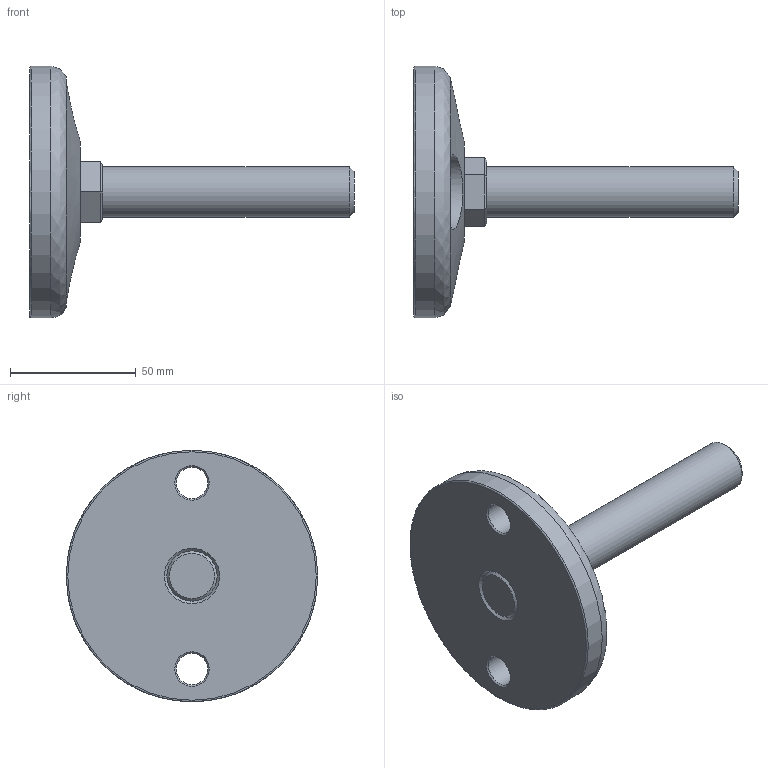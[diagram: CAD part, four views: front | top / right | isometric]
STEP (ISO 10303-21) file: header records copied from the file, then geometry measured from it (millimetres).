
FILE_DESCRIPTION(('STEP AP203'),'2;1');
FILE_NAME('12146.stp','2013-12-10T16:20:44',(''),(''),'2008.1.107','THINKDESIGN','');
FILE_SCHEMA(('CONFIG_CONTROL_DESIGN'));
Length unit declared in the file: millimetre
Bounding box: 129 x 100 x 100 mm (x, y, z)
Volume: 160903.9 mm3; surface area: 31380.7 mm2
Topology: 4 solids, 4 shells, 41 faces, 101 edges, 68 vertices
Faces by surface type: bspline 17, plane 16, cylinder 8
Full cylindrical faces by diameter (mm): 12.5 x2, 20 x3, 100 x1
Entity records: 2542 total; most frequent: CARTESIAN_POINT 1469, ORIENTED_EDGE 202, DIRECTION 199, EDGE_CURVE 101, AXIS2_PLACEMENT_3D 77, VERTEX_POINT 68, CIRCLE 53, EDGE_LOOP 47
